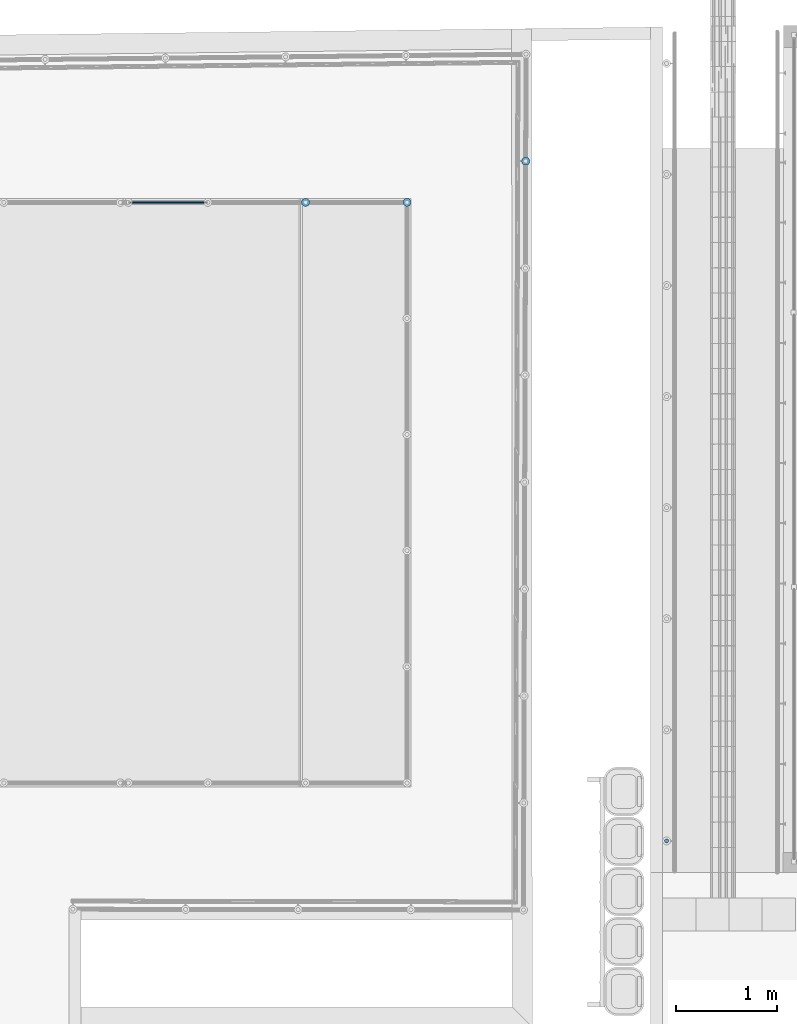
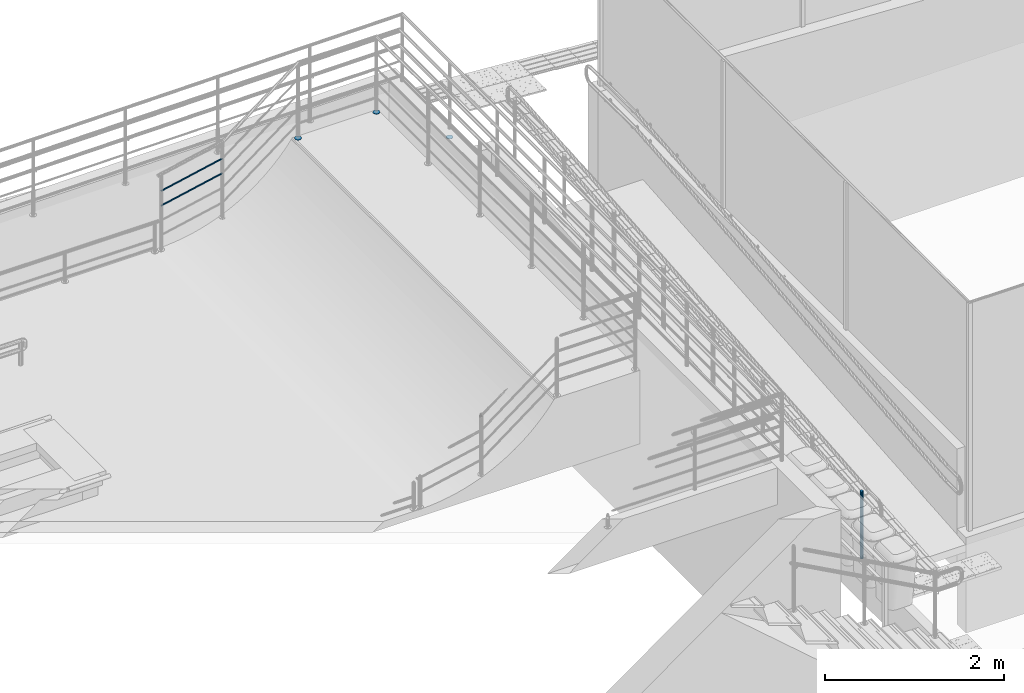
# One storey, part 118 of 237: 6 building element parts, 3 elements without a shape of their own.
"""IFC2X3 building model written with IfcOpenShell, lengths in millimetres."""

from ifc_helpers import new_model, entity, si_unit, converted_unit, derived_unit, money_unit, direction, frame, origin_with_axes, place, context, subcontext, project, spatial, faceted_brep, material, type_object, element, aggregate, save


model = new_model("IFC2X3")

# Units and contexts
model_context = context("Model", 3, precision=0.01, world=origin_with_axes(), true_north=direction((0.0, 1.0)))
body_context = subcontext(model_context, "Body", "Model", "MODEL_VIEW")
ifc_project = project(units=[si_unit("LENGTHUNIT", "METRE", prefix="MILLI"), si_unit("AREAUNIT", "SQUARE_METRE"), si_unit("VOLUMEUNIT", "CUBIC_METRE"), converted_unit("PLANEANGLEUNIT", "DEGREE", entity("IfcPlaneAngleMeasure", 0.0174532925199), si_unit("PLANEANGLEUNIT", "RADIAN"), dimensions=[0, 0, 0, 0, 0, 0, 0]), money_unit("USD"), converted_unit("TIMEUNIT", "Year", entity("IfcTimeMeasure", 31556926.0), si_unit("TIMEUNIT", "SECOND"), dimensions=[0, 0, 1, 0, 0, 0, 0]), si_unit("MASSUNIT", "GRAM", prefix="KILO"), si_unit("THERMODYNAMICTEMPERATUREUNIT", "DEGREE_CELSIUS"), si_unit("LUMINOUSINTENSITYUNIT", "LUMEN"), si_unit("ENERGYUNIT", "JOULE", prefix="MEGA"), derived_unit("THERMALCONDUCTANCEUNIT", [(si_unit("POWERUNIT", "WATT"), 1), (si_unit("LENGTHUNIT", "METRE"), -1), (si_unit("THERMODYNAMICTEMPERATUREUNIT", "KELVIN"), -1)]), derived_unit("SPECIFICHEATCAPACITYUNIT", [(si_unit("ENERGYUNIT", "JOULE"), 1), (si_unit("MASSUNIT", "GRAM", prefix="KILO"), -1), (si_unit("THERMODYNAMICTEMPERATUREUNIT", "KELVIN"), -1)]), derived_unit("MASSDENSITYUNIT", [(si_unit("MASSUNIT", "GRAM", prefix="KILO"), 1), (si_unit("VOLUMEUNIT", "CUBIC_METRE"), -1)])], contexts=[model_context])

# Site, building, storey
site_placement = place(None, origin_with_axes())
site = spatial("IfcSite", under=ifc_project, at=site_placement, Name="Local", CompositionType="ELEMENT")
building_placement = place(site_placement, origin_with_axes())
building = spatial("IfcBuilding", under=site, at=building_placement, Name="Construção", CompositionType="ELEMENT")
storey_placement = place(building_placement, origin_with_axes())
storey = spatial("IfcBuildingStorey", under=building, at=storey_placement, Name="Pavimento Térreo", CompositionType="ELEMENT", Elevation=0.0)

# Railing, building element part
railing_type = type_object("IfcRailingType", Name="Tipo de Guarda-Corpo", PredefinedType="NOTDEFINED")
railing_1_placement = place(storey_placement, frame((70326.6870103, 28675.2458388, -1357.10819655), z_axis=(0.0, 0.0, 1.0), x_axis=(1.0, 0.0, 0.0)))
railing_1 = element("IfcRailing", 1, at=railing_1_placement, inside=storey, type_object=railing_type, Name="Guarda-Corpo - 004", PredefinedType="NOTDEFINED")
ifc_material_1 = material(Name="Alumínio")
building_element_part_1_placement = place(railing_1_placement, origin_with_axes())
building_element_part_1 = element("IfcBuildingElementPart", 2, at=building_element_part_1_placement, material=ifc_material_1, Name="Alumínio", context=body_context, shape_type="Brep", body=[
    faceted_brep([(-4724.94154898, 5628.91656656, 0.0), (-4731.88926449, 5628.32967687, 0.0), (-4731.88926449, 5628.32967687, 5.0), (-4724.94154898, 5628.91656656, 5.0), (-4717.99747255, 5628.28808195, 0.0), (-4711.26802745, 5626.46331921, 0.0), (-4704.95768447, 5623.49772283, 0.0), (-4699.25818019, 5619.48140097, 0.0), (-4694.34269115, 5614.53638754, 0.0), (-4690.36057201, 5608.81293425, 0.0), (-4687.43281744, 5602.48494535, 0.0), (-4685.64838578, 5595.74469357, 0.0), (-4685.06149609, 5588.79697806, 0.0), (-4685.6899807, 5581.85290163, 0.0), (-4687.51474344, 5575.12345654, 0.0), (-4690.48033982, 5568.81311356, 0.0), (-4694.49666167, 5563.11360927, 0.0), (-4699.44167511, 5558.19812024, 0.0), (-4705.1651284, 5554.21600109, 0.0), (-4711.4931173, 5551.28824652, 0.0), (-4718.23336908, 5549.50381487, 0.0), (-4725.18108459, 5548.91692517, 0.0), (-4732.12516102, 5549.54540979, 0.0), (-4738.85460611, 5551.37017253, 0.0), (-4745.16494909, 5554.3357689, 0.0), (-4750.86445338, 5558.35209076, 0.0), (-4755.77994241, 5563.2971042, 0.0), (-4759.76206155, 5569.02055748, 0.0), (-4762.68981613, 5575.34854638, 0.0), (-4764.47424778, 5582.08879816, 0.0), (-4765.06113748, 5589.03651367, 0.0), (-4764.43265286, 5595.9805901, 0.0), (-4762.60789012, 5602.7100352, 0.0), (-4759.64229375, 5609.02037818, 0.0), (-4755.62597189, 5614.71988246, 0.0), (-4750.68095845, 5619.6353715, 0.0), (-4744.95750517, 5623.61749064, 0.0), (-4738.62951627, 5626.54524521, 0.0), (-4738.62951627, 5626.54524521, 5.0), (-4744.95750517, 5623.61749064, 5.0), (-4750.68095845, 5619.6353715, 5.0), (-4755.62597189, 5614.71988246, 5.0), (-4759.64229375, 5609.02037818, 5.0), (-4762.60789012, 5602.7100352, 5.0), (-4764.43265286, 5595.9805901, 5.0), (-4765.06113748, 5589.03651367, 5.0), (-4764.47424778, 5582.08879816, 5.0), (-4762.68981613, 5575.34854638, 5.0), (-4759.76206155, 5569.02055748, 5.0), (-4755.77994241, 5563.2971042, 5.0), (-4750.86445338, 5558.35209076, 5.0), (-4745.16494909, 5554.3357689, 5.0), (-4738.85460611, 5551.37017253, 5.0), (-4732.12516102, 5549.54540979, 5.0), (-4725.18108459, 5548.91692517, 5.0), (-4718.23336908, 5549.50381487, 5.0), (-4711.4931173, 5551.28824652, 5.0), (-4705.1651284, 5554.21600109, 5.0), (-4699.44167511, 5558.19812024, 5.0), (-4694.49666167, 5563.11360927, 5.0), (-4690.48033982, 5568.81311356, 5.0), (-4687.51474344, 5575.12345654, 5.0), (-4685.6899807, 5581.85290163, 5.0), (-4685.06149609, 5588.79697806, 5.0), (-4685.64838578, 5595.74469357, 5.0), (-4687.43281744, 5602.48494535, 5.0), (-4690.36057201, 5608.81293425, 5.0), (-4694.34269115, 5614.53638754, 5.0), (-4699.25818019, 5619.48140097, 5.0), (-4704.95768447, 5623.49772283, 5.0), (-4711.26802745, 5626.46331921, 5.0), (-4717.99747255, 5628.28808195, 5.0)], [[[0, 1, 2, 3]], [[0, 4, 5, 6, 7, 8, 9, 10, 11, 12, 13, 14, 15, 16, 17, 18, 19, 20, 21, 22, 23, 24, 25, 26, 27, 28, 29, 30, 31, 32, 33, 34, 35, 36, 37, 1]], [[1, 37, 38, 2]], [[3, 2, 38, 39, 40, 41, 42, 43, 44, 45, 46, 47, 48, 49, 50, 51, 52, 53, 54, 55, 56, 57, 58, 59, 60, 61, 62, 63, 64, 65, 66, 67, 68, 69, 70, 71]], [[4, 0, 3, 71]], [[5, 4, 71, 70]], [[6, 5, 70, 69]], [[7, 6, 69, 68]], [[8, 7, 68, 67]], [[9, 8, 67, 66]], [[10, 9, 66, 65]], [[11, 10, 65, 64]], [[12, 11, 64, 63]], [[13, 12, 63, 62]], [[14, 13, 62, 61]], [[15, 14, 61, 60]], [[16, 15, 60, 59]], [[17, 16, 59, 58]], [[18, 17, 58, 57]], [[19, 18, 57, 56]], [[20, 19, 56, 55]], [[21, 20, 55, 54]], [[22, 21, 54, 53]], [[23, 22, 53, 52]], [[24, 23, 52, 51]], [[25, 24, 51, 50]], [[26, 25, 50, 49]], [[27, 26, 49, 48]], [[28, 27, 48, 47]], [[29, 28, 47, 46]], [[30, 29, 46, 45]], [[31, 30, 45, 44]], [[32, 31, 44, 43]], [[33, 32, 43, 42]], [[34, 33, 42, 41]], [[35, 34, 41, 40]], [[36, 35, 40, 39]], [[37, 36, 39, 38]]]),
])
aggregate(railing_1, [building_element_part_1])

# Railing, building element parts
railing_2_placement = place(storey_placement, frame((61612.4440926, 28006.4497128, -1265.99547451), z_axis=(0.0, 0.0, 1.0), x_axis=(-1.0, 0.0, 0.0)))
railing_2 = element("IfcRailing", 3, at=railing_2_placement, inside=storey, type_object=railing_type, Name="Guarda-Corpo - 001", PredefinedType="NOTDEFINED")
building_element_part_2_placement = place(railing_2_placement, origin_with_axes())
building_element_part_2 = element("IfcBuildingElementPart", 4, at=building_element_part_2_placement, material=ifc_material_1, Name="Alumínio", context=body_context, shape_type="Brep", body=[
    faceted_brep([(-2809.99999934, -5888.47939977, 908.887277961), (-2803.05407226, -5887.87170966, 908.887277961), (-2803.05407226, -5887.87170966, 913.887277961), (-2809.99999934, -5888.47939977, 913.887277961), (-2816.94592647, -5887.87171012, 908.887277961), (-2823.68080515, -5886.06710505, 908.887277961), (-2829.99999952, -5883.12041658, 908.887277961), (-2835.71150404, -5879.12117834, 908.887277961), (-2840.64177754, -5874.19090517, 908.887277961), (-2844.64101615, -5868.47940091, 908.887277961), (-2847.58770504, -5862.16020674, 908.887277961), (-2849.39231055, -5855.42532817, 908.887277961), (-2850.00000066, -5848.47940109, 908.887277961), (-2849.39231101, -5841.53347396, 908.887277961), (-2847.58770594, -5834.79859527, 908.887277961), (-2844.64101747, -5828.47940091, 908.887277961), (-2840.64177923, -5822.76789639, 908.887277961), (-2835.71150605, -5817.83762289, 908.887277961), (-2830.0000018, -5813.83838428, 908.887277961), (-2823.68080763, -5810.89169539, 908.887277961), (-2816.94592906, -5809.08708988, 908.887277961), (-2810.00000197, -5808.47939977, 908.887277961), (-2803.05407485, -5809.08708942, 908.887277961), (-2796.31919616, -5810.89169449, 908.887277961), (-2790.0000018, -5813.83838296, 908.887277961), (-2784.28849728, -5817.8376212, 908.887277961), (-2779.35822378, -5822.76789437, 908.887277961), (-2775.35898517, -5828.47939863, 908.887277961), (-2772.41229628, -5834.7985928, 908.887277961), (-2770.60769077, -5841.53347137, 908.887277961), (-2770.00000066, -5848.47939845, 908.887277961), (-2770.60769031, -5855.42532558, 908.887277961), (-2772.41229538, -5862.16020427, 908.887277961), (-2775.35898385, -5868.47939863, 908.887277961), (-2779.35822209, -5874.19090315, 908.887277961), (-2784.28849526, -5879.12117665, 908.887277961), (-2789.99999952, -5883.12041526, 908.887277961), (-2796.31919369, -5886.06710415, 908.887277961), (-2796.31919369, -5886.06710415, 913.887277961), (-2789.99999952, -5883.12041526, 913.887277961), (-2784.28849526, -5879.12117665, 913.887277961), (-2779.35822209, -5874.19090315, 913.887277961), (-2775.35898385, -5868.47939863, 913.887277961), (-2772.41229538, -5862.16020427, 913.887277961), (-2770.60769031, -5855.42532558, 913.887277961), (-2770.00000066, -5848.47939845, 913.887277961), (-2770.60769077, -5841.53347137, 913.887277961), (-2772.41229628, -5834.7985928, 913.887277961), (-2775.35898517, -5828.47939863, 913.887277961), (-2779.35822378, -5822.76789437, 913.887277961), (-2784.28849728, -5817.8376212, 913.887277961), (-2790.0000018, -5813.83838296, 913.887277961), (-2796.31919616, -5810.89169449, 913.887277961), (-2803.05407485, -5809.08708942, 913.887277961), (-2810.00000197, -5808.47939977, 913.887277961), (-2816.94592906, -5809.08708988, 913.887277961), (-2823.68080763, -5810.89169539, 913.887277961), (-2830.0000018, -5813.83838428, 913.887277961), (-2835.71150605, -5817.83762289, 913.887277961), (-2840.64177923, -5822.76789639, 913.887277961), (-2844.64101747, -5828.47940091, 913.887277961), (-2847.58770594, -5834.79859527, 913.887277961), (-2849.39231101, -5841.53347396, 913.887277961), (-2850.00000066, -5848.47940109, 913.887277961), (-2849.39231055, -5855.42532817, 913.887277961), (-2847.58770504, -5862.16020674, 913.887277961), (-2844.64101615, -5868.47940091, 913.887277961), (-2840.64177754, -5874.19090517, 913.887277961), (-2835.71150404, -5879.12117834, 913.887277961), (-2829.99999952, -5883.12041658, 913.887277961), (-2823.68080515, -5886.06710505, 913.887277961), (-2816.94592647, -5887.87171012, 913.887277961)], [[[0, 1, 2, 3]], [[0, 4, 5, 6, 7, 8, 9, 10, 11, 12, 13, 14, 15, 16, 17, 18, 19, 20, 21, 22, 23, 24, 25, 26, 27, 28, 29, 30, 31, 32, 33, 34, 35, 36, 37, 1]], [[1, 37, 38, 2]], [[3, 2, 38, 39, 40, 41, 42, 43, 44, 45, 46, 47, 48, 49, 50, 51, 52, 53, 54, 55, 56, 57, 58, 59, 60, 61, 62, 63, 64, 65, 66, 67, 68, 69, 70, 71]], [[4, 0, 3, 71]], [[5, 4, 71, 70]], [[6, 5, 70, 69]], [[7, 6, 69, 68]], [[8, 7, 68, 67]], [[9, 8, 67, 66]], [[10, 9, 66, 65]], [[11, 10, 65, 64]], [[12, 11, 64, 63]], [[13, 12, 63, 62]], [[14, 13, 62, 61]], [[15, 14, 61, 60]], [[16, 15, 60, 59]], [[17, 16, 59, 58]], [[18, 17, 58, 57]], [[19, 18, 57, 56]], [[20, 19, 56, 55]], [[21, 20, 55, 54]], [[22, 21, 54, 53]], [[23, 22, 53, 52]], [[24, 23, 52, 51]], [[25, 24, 51, 50]], [[26, 25, 50, 49]], [[27, 26, 49, 48]], [[28, 27, 48, 47]], [[29, 28, 47, 46]], [[30, 29, 46, 45]], [[31, 30, 45, 44]], [[32, 31, 44, 43]], [[33, 32, 43, 42]], [[34, 33, 42, 41]], [[35, 34, 41, 40]], [[36, 35, 40, 39]], [[37, 36, 39, 38]]]),
])
building_element_part_3_placement = place(railing_2_placement, origin_with_axes())
building_element_part_3 = element("IfcBuildingElementPart", 5, at=building_element_part_3_placement, material=ifc_material_1, Name="Alumínio", context=body_context, shape_type="Brep", body=[
    faceted_brep([(-1761.88150093, -5848.29229301, 908.640042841), (-1762.49043077, -5841.3464745, 908.640042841), (-1762.49043077, -5841.3464745, 913.640042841), (-1761.88150093, -5848.29229301, 913.640042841), (-1762.48795083, -5855.23832849, 908.640042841), (-1764.29135379, -5861.97352916, 908.640042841), (-1767.23691434, -5868.29324937, 908.640042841), (-1771.23513309, -5874.0054676, 908.640042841), (-1776.16452621, -5878.936621, 908.640042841), (-1781.87531657, -5882.93687897, 908.640042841), (-1788.1939847, -5885.88469569, 908.640042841), (-1794.92854107, -5887.69050325, 908.640042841), (-1801.87435958, -5888.29943309, 908.640042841), (-1808.82039506, -5887.69298319, 908.640042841), (-1815.55559573, -5885.88958023, 908.640042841), (-1821.87531593, -5882.94401968, 908.640042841), (-1827.58753417, -5878.94580093, 908.640042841), (-1832.51868757, -5874.01640781, 908.640042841), (-1836.51894554, -5868.30561745, 908.640042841), (-1839.46676226, -5861.98694932, 908.640042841), (-1841.27256981, -5855.25239295, 908.640042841), (-1841.88149966, -5848.30657444, 908.640042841), (-1841.27504976, -5841.36053896, 908.640042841), (-1839.47164679, -5834.62533829, 908.640042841), (-1836.52608625, -5828.30561809, 908.640042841), (-1832.52786749, -5822.59339985, 908.640042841), (-1827.59847438, -5817.66224645, 908.640042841), (-1821.88768402, -5813.66198848, 908.640042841), (-1815.56901589, -5810.71417176, 908.640042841), (-1808.83445952, -5808.90836421, 908.640042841), (-1801.88864101, -5808.29943436, 908.640042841), (-1794.94260553, -5808.90588426, 908.640042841), (-1788.20740486, -5810.70928723, 908.640042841), (-1781.88768465, -5813.65484777, 908.640042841), (-1776.17546642, -5817.65306653, 908.640042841), (-1771.24431302, -5822.58245964, 908.640042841), (-1767.24405505, -5828.29325, 908.640042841), (-1764.29623833, -5834.61191813, 908.640042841), (-1764.29623833, -5834.61191813, 913.640042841), (-1767.24405505, -5828.29325, 913.640042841), (-1771.24431302, -5822.58245964, 913.640042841), (-1776.17546642, -5817.65306653, 913.640042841), (-1781.88768465, -5813.65484777, 913.640042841), (-1788.20740486, -5810.70928723, 913.640042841), (-1794.94260553, -5808.90588426, 913.640042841), (-1801.88864101, -5808.29943436, 913.640042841), (-1808.83445952, -5808.90836421, 913.640042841), (-1815.56901589, -5810.71417176, 913.640042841), (-1821.88768402, -5813.66198848, 913.640042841), (-1827.59847438, -5817.66224645, 913.640042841), (-1832.52786749, -5822.59339985, 913.640042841), (-1836.52608625, -5828.30561809, 913.640042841), (-1839.47164679, -5834.62533829, 913.640042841), (-1841.27504976, -5841.36053896, 913.640042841), (-1841.88149966, -5848.30657444, 913.640042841), (-1841.27256981, -5855.25239295, 913.640042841), (-1839.46676226, -5861.98694932, 913.640042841), (-1836.51894554, -5868.30561745, 913.640042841), (-1832.51868757, -5874.01640781, 913.640042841), (-1827.58753417, -5878.94580093, 913.640042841), (-1821.87531593, -5882.94401968, 913.640042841), (-1815.55559573, -5885.88958023, 913.640042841), (-1808.82039506, -5887.69298319, 913.640042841), (-1801.87435958, -5888.29943309, 913.640042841), (-1794.92854107, -5887.69050325, 913.640042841), (-1788.1939847, -5885.88469569, 913.640042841), (-1781.87531657, -5882.93687897, 913.640042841), (-1776.16452621, -5878.936621, 913.640042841), (-1771.23513309, -5874.0054676, 913.640042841), (-1767.23691434, -5868.29324937, 913.640042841), (-1764.29135379, -5861.97352916, 913.640042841), (-1762.48795083, -5855.23832849, 913.640042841)], [[[0, 1, 2, 3]], [[0, 4, 5, 6, 7, 8, 9, 10, 11, 12, 13, 14, 15, 16, 17, 18, 19, 20, 21, 22, 23, 24, 25, 26, 27, 28, 29, 30, 31, 32, 33, 34, 35, 36, 37, 1]], [[1, 37, 38, 2]], [[3, 2, 38, 39, 40, 41, 42, 43, 44, 45, 46, 47, 48, 49, 50, 51, 52, 53, 54, 55, 56, 57, 58, 59, 60, 61, 62, 63, 64, 65, 66, 67, 68, 69, 70, 71]], [[4, 0, 3, 71]], [[5, 4, 71, 70]], [[6, 5, 70, 69]], [[7, 6, 69, 68]], [[8, 7, 68, 67]], [[9, 8, 67, 66]], [[10, 9, 66, 65]], [[11, 10, 65, 64]], [[12, 11, 64, 63]], [[13, 12, 63, 62]], [[14, 13, 62, 61]], [[15, 14, 61, 60]], [[16, 15, 60, 59]], [[17, 16, 59, 58]], [[18, 17, 58, 57]], [[19, 18, 57, 56]], [[20, 19, 56, 55]], [[21, 20, 55, 54]], [[22, 21, 54, 53]], [[23, 22, 53, 52]], [[24, 23, 52, 51]], [[25, 24, 51, 50]], [[26, 25, 50, 49]], [[27, 26, 49, 48]], [[28, 27, 48, 47]], [[29, 28, 47, 46]], [[30, 29, 46, 45]], [[31, 30, 45, 44]], [[32, 31, 44, 43]], [[33, 32, 43, 42]], [[34, 33, 42, 41]], [[35, 34, 41, 40]], [[36, 35, 40, 39]], [[37, 36, 39, 38]]]),
])
ifc_material_2 = material(Name="Aço - Inoxidável")
building_element_part_4_placement = place(railing_2_placement, origin_with_axes())
building_element_part_4 = element("IfcBuildingElementPart", 6, at=building_element_part_4_placement, material=ifc_material_2, Name="Aço - Inoxidável", context=body_context, shape_type="Brep", body=[
    faceted_brep([(-829.669761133, -5837.7990063, 775.133490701), (-828.932821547, -5837.9509856, 776.752678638), (-39.6134403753, -5838.39336981, 610.142333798), (-830.406724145, -5837.95087197, 773.514302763), (-831.121318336, -5838.40196825, 771.944313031), (-831.791831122, -5839.1385888, 770.471224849), (-832.397889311, -5840.1383518, 769.139797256), (-832.921078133, -5841.37087994, 767.990485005), (-833.345500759, -5842.79872347, 767.058209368), (-833.658261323, -5844.37849811, 766.371297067), (-833.849856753, -5846.06220318, 765.950619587), (-833.914465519, -5847.79868018, 765.808958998), (-833.850124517, -5849.53516712, 765.950619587), (-833.658788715, -5851.21890172, 766.371297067), (-833.346271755, -5852.79872456, 767.058209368), (-832.922069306, -5854.22663353, 767.990485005), (-832.399070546, -5855.45924232, 769.139797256), (-831.793166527, -5856.45909876, 770.471224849), (-831.122767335, -5857.1958227, 771.944313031), (-830.408242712, -5857.64702917, 773.514302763), (-829.671303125, -5857.79900847, 775.133490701), (-828.934340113, -5857.6471428, 776.752678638), (-828.219745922, -5857.19604652, 778.32266837), (-827.549233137, -5856.45942597, 779.795756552), (-826.943174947, -5855.45966297, 781.127184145), (-826.419986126, -5854.22713483, 782.276496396), (-825.9955635, -5852.7992913, 783.208772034), (-825.682802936, -5851.21951666, 783.895684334), (-825.491207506, -5849.53581158, 784.316361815), (-825.426598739, -5847.79933459, 784.458022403), (-825.490939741, -5846.06284765, 784.316361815), (-825.682275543, -5844.37911305, 783.895684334), (-825.994792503, -5842.79929021, 783.208772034), (-826.418994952, -5841.37138124, 782.276496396), (-826.941993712, -5840.13877245, 781.127184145), (-827.547897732, -5839.13891601, 779.795756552), (-828.218296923, -5838.40219207, 778.32266837), (-39.2659522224, -5838.8447158, 611.789752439), (-39.9719931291, -5838.24124652, 608.443290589), (-40.3307160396, -5838.39296813, 606.74424738), (-40.6787094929, -5838.84392464, 605.096828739), (-41.0053998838, -5839.58041397, 603.551090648), (-41.3008608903, -5840.58005828, 602.153999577), (-41.556115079, -5841.81248386, 600.948005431), (-41.7634066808, -5843.24024409, 599.969751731), (-41.916437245, -5844.81995721, 599.248962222), (-42.0105570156, -5846.50362442, 598.807537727), (-42.0429062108, -5848.24008835, 598.658890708), (-42.0125019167, -5849.97658743, 598.807537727), (-41.9202679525, -5851.660359, 599.248962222), (-41.7690068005, -5853.24024253, 599.969751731), (-41.5633144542, -5854.66823404, 600.948005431), (-41.3094407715, -5855.90094474, 602.153999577), (-41.0150995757, -5856.90091933, 603.551090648), (-40.6892342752, -5857.63777411, 605.096828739), (-40.3417461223, -5858.0891201, 606.74424738), (-39.9831933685, -5858.24124339, 608.443290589), (-39.624470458, -5858.08952178, 610.142333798), (-39.2764770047, -5857.63856527, 611.789752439), (-38.9497866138, -5856.90207593, 613.335490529), (-38.6543256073, -5855.90243163, 614.732581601), (-38.3990714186, -5854.67000605, 615.938575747), (-38.1917798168, -5853.24224582, 616.916829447), (-38.0387492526, -5851.6625327, 617.637618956), (-37.944629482, -5849.97886549, 618.07904345), (-37.9122802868, -5848.24240156, 618.22769047), (-37.9426845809, -5846.50590248, 618.07904345), (-38.0349185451, -5844.82213091, 617.637618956), (-38.1861796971, -5843.24224738, 616.916829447), (-38.3918720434, -5841.81425587, 615.938575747), (-38.6457457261, -5840.58154517, 614.732581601), (-38.9400869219, -5839.58157058, 613.335490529)], [[[0, 1, 2]], [[0, 3, 4, 5, 6, 7, 8, 9, 10, 11, 12, 13, 14, 15, 16, 17, 18, 19, 20, 21, 22, 23, 24, 25, 26, 27, 28, 29, 30, 31, 32, 33, 34, 35, 36, 1]], [[1, 37, 2]], [[0, 2, 38]], [[3, 0, 38]], [[4, 3, 39]], [[5, 4, 40]], [[6, 5, 41]], [[7, 6, 42]], [[8, 7, 43]], [[9, 8, 44]], [[10, 9, 45]], [[11, 10, 46]], [[12, 11, 47]], [[13, 12, 48]], [[14, 13, 49]], [[15, 14, 50]], [[16, 15, 51]], [[17, 16, 52]], [[18, 17, 53]], [[19, 18, 54]], [[20, 19, 55]], [[21, 20, 56]], [[22, 21, 57]], [[23, 22, 58]], [[24, 23, 59]], [[25, 24, 60]], [[26, 25, 61]], [[27, 26, 62]], [[28, 27, 63]], [[29, 28, 64]], [[30, 29, 65]], [[31, 30, 66]], [[32, 31, 67]], [[33, 32, 68]], [[34, 33, 69]], [[35, 34, 70]], [[36, 35, 71]], [[1, 36, 37]], [[38, 2, 37, 71, 70, 69, 68, 67, 66, 65, 64, 63, 62, 61, 60, 59, 58, 57, 56, 55, 54, 53, 52, 51, 50, 49, 48, 47, 46, 45, 44, 43, 42, 41, 40, 39]], [[3, 38, 39]], [[4, 39, 40]], [[5, 40, 41]], [[6, 41, 42]], [[7, 42, 43]], [[8, 43, 44]], [[9, 44, 45]], [[10, 45, 46]], [[11, 46, 47]], [[12, 47, 48]], [[13, 48, 49]], [[14, 49, 50]], [[15, 50, 51]], [[16, 51, 52]], [[17, 52, 53]], [[18, 53, 54]], [[19, 54, 55]], [[20, 55, 56]], [[21, 56, 57]], [[22, 57, 58]], [[23, 58, 59]], [[24, 59, 60]], [[25, 60, 61]], [[26, 61, 62]], [[27, 62, 63]], [[28, 63, 64]], [[29, 64, 65]], [[30, 65, 66]], [[31, 66, 67]], [[32, 67, 68]], [[33, 68, 69]], [[34, 69, 70]], [[35, 70, 71]], [[36, 71, 37]]]),
])
building_element_part_5_placement = place(railing_2_placement, origin_with_axes())
building_element_part_5 = element("IfcBuildingElementPart", 7, at=building_element_part_5_placement, material=ifc_material_2, Name="Aço - Inoxidável", context=body_context, shape_type="Brep", body=[
    faceted_brep([(-829.669761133, -5837.7990063, 975.133490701), (-828.932821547, -5837.9509856, 976.752678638), (-39.6134403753, -5838.39336981, 810.142333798), (-830.406724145, -5837.95087197, 973.514302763), (-831.121318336, -5838.40196825, 971.944313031), (-831.791831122, -5839.1385888, 970.471224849), (-832.397889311, -5840.1383518, 969.139797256), (-832.921078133, -5841.37087994, 967.990485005), (-833.345500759, -5842.79872347, 967.058209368), (-833.658261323, -5844.37849811, 966.371297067), (-833.849856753, -5846.06220318, 965.950619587), (-833.914465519, -5847.79868018, 965.808958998), (-833.850124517, -5849.53516712, 965.950619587), (-833.658788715, -5851.21890172, 966.371297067), (-833.346271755, -5852.79872456, 967.058209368), (-832.922069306, -5854.22663353, 967.990485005), (-832.399070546, -5855.45924232, 969.139797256), (-831.793166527, -5856.45909876, 970.471224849), (-831.122767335, -5857.1958227, 971.944313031), (-830.408242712, -5857.64702917, 973.514302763), (-829.671303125, -5857.79900847, 975.133490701), (-828.934340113, -5857.6471428, 976.752678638), (-828.219745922, -5857.19604652, 978.32266837), (-827.549233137, -5856.45942597, 979.795756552), (-826.943174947, -5855.45966297, 981.127184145), (-826.419986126, -5854.22713483, 982.276496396), (-825.9955635, -5852.7992913, 983.208772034), (-825.682802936, -5851.21951666, 983.895684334), (-825.491207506, -5849.53581158, 984.316361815), (-825.426598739, -5847.79933459, 984.458022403), (-825.490939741, -5846.06284765, 984.316361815), (-825.682275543, -5844.37911305, 983.895684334), (-825.994792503, -5842.79929021, 983.208772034), (-826.418994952, -5841.37138124, 982.276496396), (-826.941993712, -5840.13877245, 981.127184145), (-827.547897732, -5839.13891601, 979.795756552), (-828.218296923, -5838.40219207, 978.32266837), (-39.2659522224, -5838.8447158, 811.789752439), (-39.9719931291, -5838.24124652, 808.443290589), (-40.3307160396, -5838.39296813, 806.74424738), (-40.6787094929, -5838.84392464, 805.096828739), (-41.0053998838, -5839.58041397, 803.551090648), (-41.3008608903, -5840.58005828, 802.153999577), (-41.556115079, -5841.81248386, 800.948005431), (-41.7634066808, -5843.24024409, 799.969751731), (-41.916437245, -5844.81995721, 799.248962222), (-42.0105570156, -5846.50362442, 798.807537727), (-42.0429062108, -5848.24008835, 798.658890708), (-42.0125019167, -5849.97658743, 798.807537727), (-41.9202679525, -5851.660359, 799.248962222), (-41.7690068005, -5853.24024253, 799.969751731), (-41.5633144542, -5854.66823404, 800.948005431), (-41.3094407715, -5855.90094474, 802.153999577), (-41.0150995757, -5856.90091933, 803.551090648), (-40.6892342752, -5857.63777411, 805.096828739), (-40.3417461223, -5858.0891201, 806.74424738), (-39.9831933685, -5858.24124339, 808.443290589), (-39.624470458, -5858.08952178, 810.142333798), (-39.2764770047, -5857.63856527, 811.789752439), (-38.9497866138, -5856.90207593, 813.335490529), (-38.6543256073, -5855.90243163, 814.732581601), (-38.3990714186, -5854.67000605, 815.938575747), (-38.1917798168, -5853.24224582, 816.916829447), (-38.0387492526, -5851.6625327, 817.637618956), (-37.944629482, -5849.97886549, 818.07904345), (-37.9122802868, -5848.24240156, 818.22769047), (-37.9426845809, -5846.50590248, 818.07904345), (-38.0349185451, -5844.82213091, 817.637618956), (-38.1861796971, -5843.24224738, 816.916829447), (-38.3918720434, -5841.81425587, 815.938575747), (-38.6457457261, -5840.58154517, 814.732581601), (-38.9400869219, -5839.58157058, 813.335490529)], [[[0, 1, 2]], [[0, 3, 4, 5, 6, 7, 8, 9, 10, 11, 12, 13, 14, 15, 16, 17, 18, 19, 20, 21, 22, 23, 24, 25, 26, 27, 28, 29, 30, 31, 32, 33, 34, 35, 36, 1]], [[1, 37, 2]], [[0, 2, 38]], [[3, 0, 38]], [[4, 3, 39]], [[5, 4, 40]], [[6, 5, 41]], [[7, 6, 42]], [[8, 7, 43]], [[9, 8, 44]], [[10, 9, 45]], [[11, 10, 46]], [[12, 11, 47]], [[13, 12, 48]], [[14, 13, 49]], [[15, 14, 50]], [[16, 15, 51]], [[17, 16, 52]], [[18, 17, 53]], [[19, 18, 54]], [[20, 19, 55]], [[21, 20, 56]], [[22, 21, 57]], [[23, 22, 58]], [[24, 23, 59]], [[25, 24, 60]], [[26, 25, 61]], [[27, 26, 62]], [[28, 27, 63]], [[29, 28, 64]], [[30, 29, 65]], [[31, 30, 66]], [[32, 31, 67]], [[33, 32, 68]], [[34, 33, 69]], [[35, 34, 70]], [[36, 35, 71]], [[1, 36, 37]], [[38, 2, 37, 71, 70, 69, 68, 67, 66, 65, 64, 63, 62, 61, 60, 59, 58, 57, 56, 55, 54, 53, 52, 51, 50, 49, 48, 47, 46, 45, 44, 43, 42, 41, 40, 39]], [[3, 38, 39]], [[4, 39, 40]], [[5, 40, 41]], [[6, 41, 42]], [[7, 42, 43]], [[8, 43, 44]], [[9, 44, 45]], [[10, 45, 46]], [[11, 46, 47]], [[12, 47, 48]], [[13, 48, 49]], [[14, 49, 50]], [[15, 50, 51]], [[16, 51, 52]], [[17, 52, 53]], [[18, 53, 54]], [[19, 54, 55]], [[20, 55, 56]], [[21, 56, 57]], [[22, 57, 58]], [[23, 58, 59]], [[24, 59, 60]], [[25, 60, 61]], [[26, 61, 62]], [[27, 62, 63]], [[28, 63, 64]], [[29, 64, 65]], [[30, 65, 66]], [[31, 66, 67]], [[32, 67, 68]], [[33, 68, 69]], [[34, 69, 70]], [[35, 70, 71]], [[36, 71, 37]]]),
])
aggregate(railing_2, [building_element_part_2, building_element_part_3, building_element_part_4, building_element_part_5])

# Railing, building element part
railing_3_placement = place(storey_placement, frame((66962.5028921, 35505.5583652, -3484.00572187), z_axis=(0.0, 0.0, 1.0), x_axis=(1.0, 0.0, 0.0)))
railing_3 = element("IfcRailing", 8, at=railing_3_placement, inside=storey, type_object=railing_type, Name="Guarda-Corpo - 001", PredefinedType="NOTDEFINED")
building_element_part_6_placement = place(railing_3_placement, origin_with_axes())
building_element_part_6 = element("IfcBuildingElementPart", 9, at=building_element_part_6_placement, material=ifc_material_2, Name="Aço - Inoxidável", context=body_context, shape_type="Brep", body=[
    faceted_brep([(20.3038449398, -7993.04776484, 8.33689002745), (20.0, -7996.52072839, 8.33689002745), (20.0, -7996.52072839, 923.336890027), (20.3038449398, -7993.04776484, 923.336890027), (20.3038449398, -7999.99369195, 8.33689002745), (21.2061475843, -7989.68032553, 8.33689002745), (22.6794919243, -7986.52072839, 8.33689002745), (24.6791111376, -7983.6649762, 8.33689002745), (27.1442478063, -7981.19983953, 8.33689002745), (30.0, -7979.20022032, 8.33689002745), (33.1595971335, -7977.72687598, 8.33689002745), (36.5270364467, -7976.82457333, 8.33689002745), (40.0, -7976.52072839, 8.33689002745), (43.4729635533, -7976.82457333, 8.33689002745), (46.8404028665, -7977.72687598, 8.33689002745), (50.0, -7979.20022032, 8.33689002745), (52.8557521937, -7981.19983953, 8.33689002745), (55.3208888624, -7983.6649762, 8.33689002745), (57.3205080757, -7986.52072839, 8.33689002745), (58.7938524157, -7989.68032553, 8.33689002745), (59.6961550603, -7993.04776484, 8.33689002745), (60.0, -7996.52072839, 8.33689002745), (59.6961550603, -7999.99369195, 8.33689002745), (58.7938524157, -8003.36113126, 8.33689002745), (57.3205080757, -8006.52072839, 8.33689002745), (55.3208888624, -8009.37648059, 8.33689002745), (52.8557521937, -8011.84161726, 8.33689002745), (50.0, -8013.84123647, 8.33689002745), (46.8404028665, -8015.31458081, 8.33689002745), (43.4729635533, -8016.21688345, 8.33689002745), (40.0, -8016.52072839, 8.33689002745), (36.5270364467, -8016.21688345, 8.33689002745), (33.1595971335, -8015.31458081, 8.33689002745), (30.0, -8013.84123647, 8.33689002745), (27.1442478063, -8011.84161726, 8.33689002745), (24.6791111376, -8009.37648059, 8.33689002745), (22.6794919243, -8006.52072839, 8.33689002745), (21.2061475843, -8003.36113126, 8.33689002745), (20.3038449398, -7999.99369195, 923.336890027), (43.4729635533, -7976.82457333, 923.336890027), (40.0, -7976.52072839, 923.336890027), (36.5270364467, -7976.82457333, 923.336890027), (33.1595971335, -7977.72687598, 923.336890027), (30.0, -7979.20022032, 923.336890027), (27.1442478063, -7981.19983953, 923.336890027), (24.6791111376, -7983.6649762, 923.336890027), (22.6794919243, -7986.52072839, 923.336890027), (21.2061475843, -7989.68032553, 923.336890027), (21.2061475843, -8003.36113126, 923.336890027), (22.6794919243, -8006.52072839, 923.336890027), (24.6791111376, -8009.37648059, 923.336890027), (27.1442478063, -8011.84161726, 923.336890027), (30.0, -8013.84123647, 923.336890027), (33.1595971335, -8015.31458081, 923.336890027), (36.5270364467, -8016.21688345, 923.336890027), (40.0, -8016.52072839, 923.336890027), (43.4729635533, -8016.21688345, 923.336890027), (46.8404028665, -8015.31458081, 923.336890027), (50.0, -8013.84123647, 923.336890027), (52.8557521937, -8011.84161726, 923.336890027), (55.3208888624, -8009.37648059, 923.336890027), (57.3205080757, -8006.52072839, 923.336890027), (58.7938524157, -8003.36113126, 923.336890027), (59.6961550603, -7999.99369195, 923.336890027), (60.0, -7996.52072839, 923.336890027), (59.6961550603, -7993.04776484, 923.336890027), (58.7938524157, -7989.68032553, 923.336890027), (57.3205080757, -7986.52072839, 923.336890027), (55.3208888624, -7983.6649762, 923.336890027), (52.8557521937, -7981.19983953, 923.336890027), (50.0, -7979.20022032, 923.336890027), (46.8404028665, -7977.72687598, 923.336890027)], [[[0, 1, 2, 3]], [[4, 1, 0, 5, 6, 7, 8, 9, 10, 11, 12, 13, 14, 15, 16, 17, 18, 19, 20, 21, 22, 23, 24, 25, 26, 27, 28, 29, 30, 31, 32, 33, 34, 35, 36, 37]], [[1, 4, 38, 2]], [[39, 40, 41, 42, 43, 44, 45, 46, 47, 3, 2, 38, 48, 49, 50, 51, 52, 53, 54, 55, 56, 57, 58, 59, 60, 61, 62, 63, 64, 65, 66, 67, 68, 69, 70, 71]], [[5, 0, 3, 47]], [[6, 5, 47, 46]], [[7, 6, 46, 45]], [[8, 7, 45, 44]], [[9, 8, 44, 43]], [[10, 9, 43, 42]], [[11, 10, 42, 41]], [[12, 11, 41, 40]], [[13, 12, 40, 39]], [[14, 13, 39, 71]], [[15, 14, 71, 70]], [[16, 15, 70, 69]], [[17, 16, 69, 68]], [[18, 17, 68, 67]], [[19, 18, 67, 66]], [[20, 19, 66, 65]], [[21, 20, 65, 64]], [[22, 21, 64, 63]], [[23, 22, 63, 62]], [[24, 23, 62, 61]], [[25, 24, 61, 60]], [[26, 25, 60, 59]], [[27, 26, 59, 58]], [[28, 27, 58, 57]], [[29, 28, 57, 56]], [[30, 29, 56, 55]], [[31, 30, 55, 54]], [[32, 31, 54, 53]], [[33, 32, 53, 52]], [[34, 33, 52, 51]], [[35, 34, 51, 50]], [[36, 35, 50, 49]], [[37, 36, 49, 48]], [[4, 37, 48, 38]]]),
])
aggregate(railing_3, [building_element_part_6])

save(model, "model.ifc")
